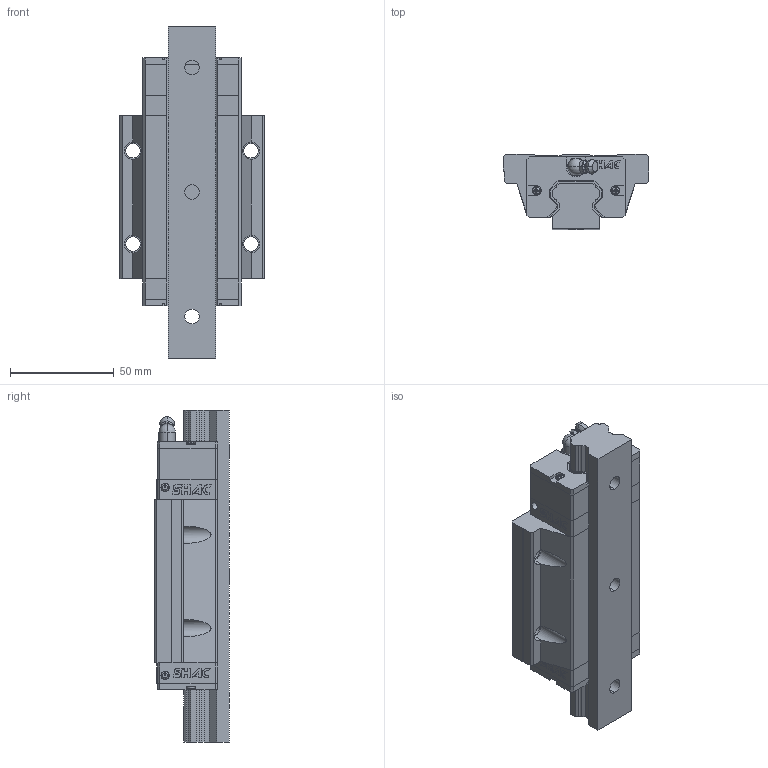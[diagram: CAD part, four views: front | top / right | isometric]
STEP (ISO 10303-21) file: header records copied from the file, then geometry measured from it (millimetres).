
FILE_DESCRIPTION (( 'STEP AP214' ), '1' );
FILE_NAME ('STP_GHW25HB_(E2)自润式_(R)上锁式_刮油片＋防尘条_1_160_160_GHW25HB_GHW25HB.step', '2020-06-27T03:06:14', ( 'IT Division' ), ( 'IT' ), 'SwSTEP 2.0', 'SolidWorks 2016', '' );
FILE_SCHEMA (( 'AUTOMOTIVE_DESIGN' ));
Length unit declared in the file: millimetre
Products named in the file (3): STP_GHW25HB_(E2)自润式_(R)上锁式_刮油片＋防尘条_1_160_160_GHW25HB_GHW25HB_2; STP_GHW25HB_(E2)自润式_(R)上锁式_刮油片＋防尘条_1_160_160_GHW25HB_GHW25HB_1; STP_GHW25HB_(E2)自润式_(R)上锁式_刮油片＋防尘条_1_160_160_GHW25HB_GHW25HB
Assembly tree (2 placements, depth 2):
  STP_GHW25HB_(E2)自润式_(R)上锁式_刮油片＋防尘条_1_160_160_GHW25HB_GHW25HB
    STP_GHW25HB_(E2)自润式_(R)上锁式_刮油片＋防尘条_1_160_160_GHW25HB_GHW25HB_1
    STP_GHW25HB_(E2)自润式_(R)上锁式_刮油片＋防尘条_1_160_160_GHW25HB_GHW25HB_2
Bounding box: 70 x 36 x 160 mm (x, y, z)
Volume: 225120.4 mm3; surface area: 58326.3 mm2
Topology: 8 solids, 8 shells, 859 faces, 2325 edges, 1530 vertices
Faces by surface type: plane 641, cylinder 160, torus 25, cone 23, sphere 10
Entity records: 30779 total; most frequent: CARTESIAN_POINT 4901, ORIENTED_EDGE 4642, DIRECTION 4474, EDGE_CURVE 2321, LINE 1816, VECTOR 1816, VERTEX_POINT 1528, AXIS2_PLACEMENT_3D 1329
